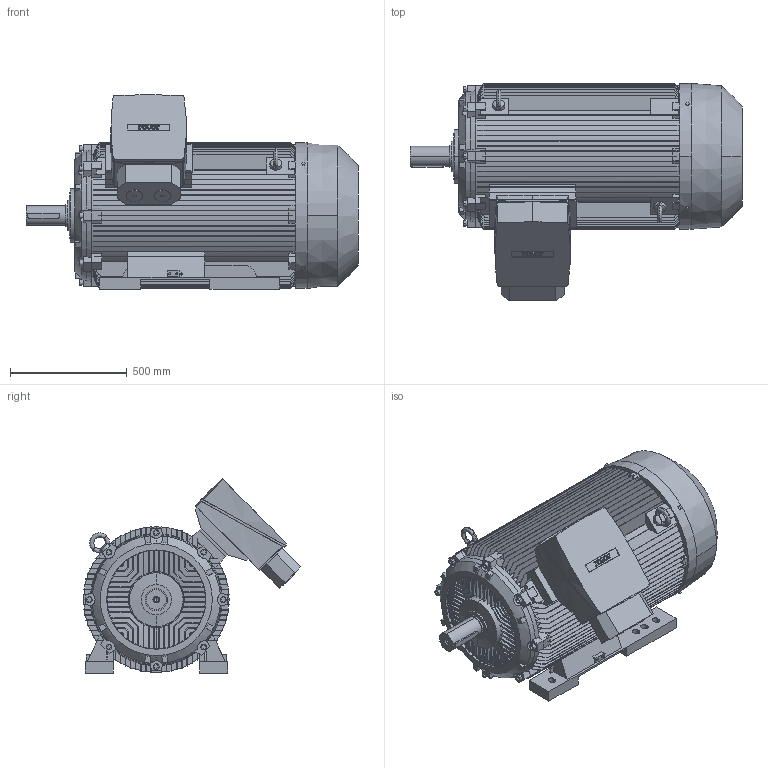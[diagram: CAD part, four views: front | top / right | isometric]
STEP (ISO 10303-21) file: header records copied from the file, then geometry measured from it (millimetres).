
FILE_DESCRIPTION (( 'STEP AP214' ), '1' );
FILE_NAME ('7RN315L04E37 IM1001.STEP', '2018-03-29T14:58:32', ( '' ), ( '' ), 'SwSTEP 2.0', 'SolidWorks 2015', '' );
FILE_SCHEMA (( 'AUTOMOTIVE_DESIGN' ));
Length unit declared in the file: millimetre
Products named in the file (1): 7RN315L04E37 IM1001
Bounding box: 1422 x 931.72 x 832.25 mm (x, y, z)
Volume: 332103577.6 mm3; surface area: 10223404.6 mm2
Topology: 7 solids, 7 shells, 1746 faces, 4917 edges, 3243 vertices
Faces by surface type: plane 1133, cylinder 336, bspline 251, cone 26
Entity records: 85543 total; most frequent: CARTESIAN_POINT 25054, ORIENTED_EDGE 9822, DIRECTION 7374, EDGE_CURVE 4911, VERTEX_POINT 3243, VECTOR 2822, LINE 2822, AXIS2_PLACEMENT_3D 2276
